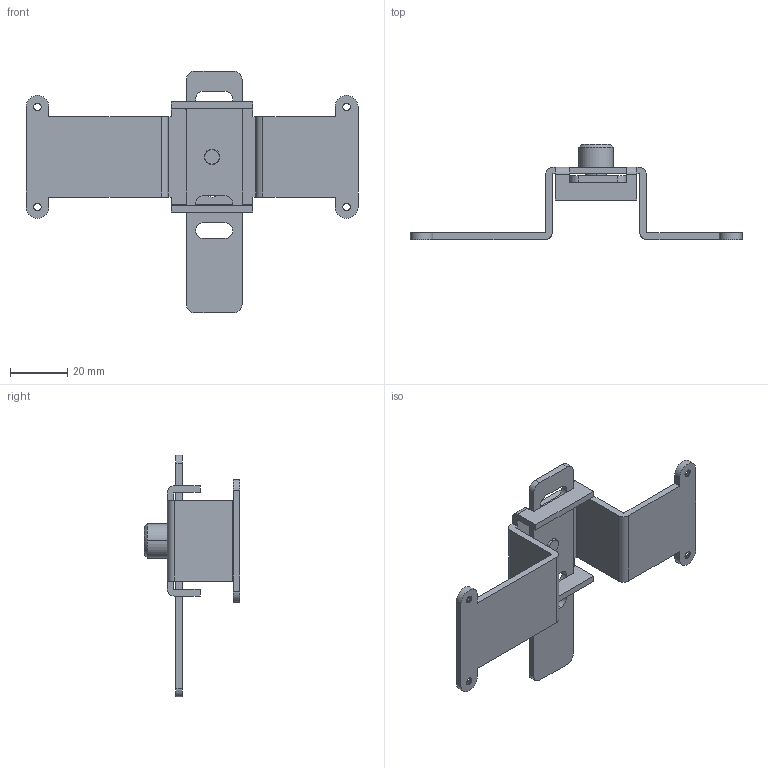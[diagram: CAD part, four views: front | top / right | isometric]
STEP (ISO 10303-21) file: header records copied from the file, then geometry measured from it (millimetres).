
FILE_DESCRIPTION(/* description */ (''),/* implementation_level */ '2;1');
FILE_NAME(/* name */ 'MIF10GM_2P_3D DATA.stp',/* time_stamp */ '2017-12-29T16:25:24+09:00',/* author */ (''),/* organization */ (''),/* preprocessor_version */ 'ST-DEVELOPER v15',/* originating_system */ 'SIEMENS PLM Software NX 9.0',/* authorisation */ '');
FILE_SCHEMA (('AP203_CONFIGURATION_CONTROLLED_3D_DESIGN_OF_MECHANICAL_PARTS_AND_ASSEMBLIES_MIM_LF { 1 0 10303 403 2 1 2}'));
Length unit declared in the file: millimetre
Products named in the file (6): GC1-OT-8035_R00; 4ME-08569-1_R00; GC1-PG-8018_R00; GC1-PG-8014_R00; GC1-AS-8058_R00
Assembly tree (5 placements, depth 3):
  GC1-AS-8058_R00
    GC1-AS-8058_R00
      GC1-PG-8014_R00
      GC1-PG-8018_R00
      4ME-08569-1_R00
      GC1-OT-8035_R00
Bounding box: 116 x 33.3 x 84.5 mm (x, y, z)
Volume: 15875 mm3; surface area: 16556.7 mm2
Topology: 4 solids, 4 shells, 128 faces, 846 edges, 1184 vertices
Faces by surface type: plane 62, cylinder 56, cone 10
Full cylindrical faces by diameter (mm): 5.5 x4
Entity records: 8833 total; most frequent: CARTESIAN_POINT 3302, DIRECTION 1076, ORIENTED_EDGE 696, LINE 538, VECTOR 538, EDGE_CURVE 348, TRIMMED_CURVE 324, AXIS2_PLACEMENT_3D 269
